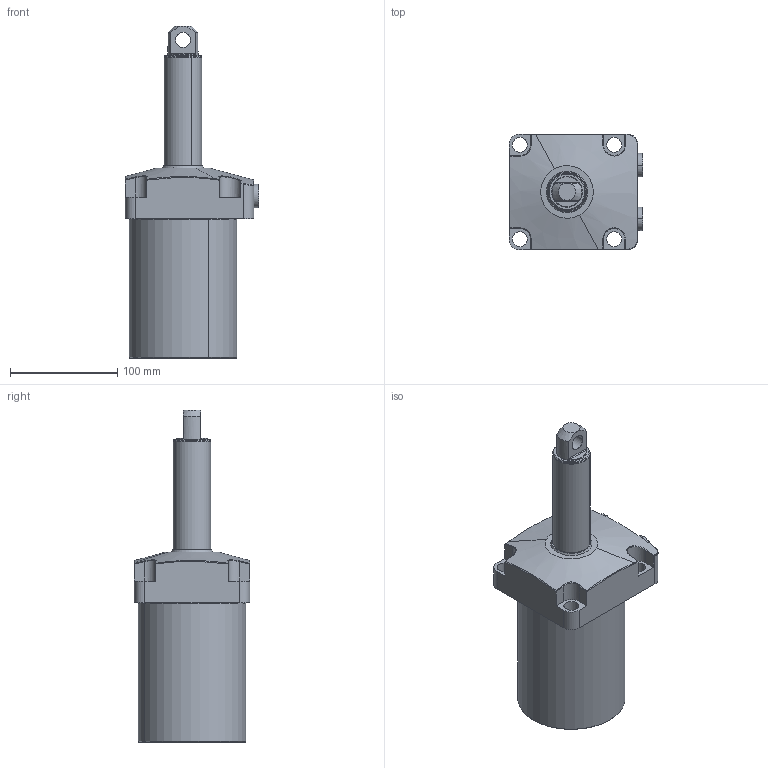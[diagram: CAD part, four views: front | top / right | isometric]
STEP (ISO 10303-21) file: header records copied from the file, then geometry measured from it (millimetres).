
FILE_DESCRIPTION(('CATIA V5 STEP Exchange'),'2;1');
FILE_NAME('C:\Users\kong\Desktop\GCD-25-100X.stp','2014-11-04T06:50:13+00:00',('none'),('none'),'CATIA Version 5 Release 17 (IN-10)','CATIA V5 STEP AP203','none');
FILE_SCHEMA(('CONFIG_CONTROL_DESIGN'));
Length unit declared in the file: millimetre
Products named in the file (1): Product1
Assembly tree (4 placements, depth 2):
  Product1
    #56
    #5374
    #6260  x2
Bounding box: 124.81 x 108 x 309.5 mm (x, y, z)
Volume: 1533705.6 mm3; surface area: 118781 mm2
Topology: 4 solids, 4 shells, 171 faces, 420 edges, 272 vertices
Faces by surface type: plane 55, cylinder 52, cone 30, bspline 22, torus 12
Entity records: 6920 total; most frequent: CARTESIAN_POINT 3657, ORIENTED_EDGE 748, DIRECTION 457, EDGE_CURVE 374, VERTEX_POINT 244, AXIS2_PLACEMENT_3D 229, EDGE_LOOP 172, ADVANCED_FACE 149
